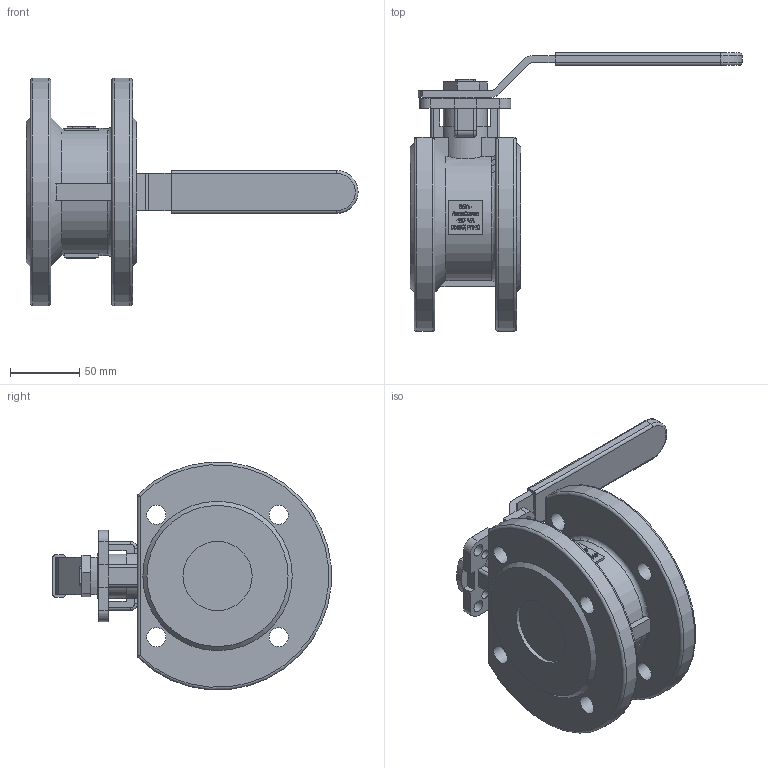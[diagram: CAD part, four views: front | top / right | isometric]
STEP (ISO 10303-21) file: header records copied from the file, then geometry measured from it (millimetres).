
FILE_DESCRIPTION((''),'2;1');
FILE_NAME('K:\Inventor\1 Artikel\12) Flanschen-Kugelhähne\12a) manuell\Econosto\437-VA, 7383\437-VA, DN50\437-VA, DN50, 3D\437-VA, DN50, PN40, HH, 3D.stp','2019-11-07T15:49:01',('claudia'),(''),'Autodesk Inventor 2013','Autodesk Inventor 2013','');
FILE_SCHEMA(('AUTOMOTIVE_DESIGN { 1 0 10303 214 1 1 1 1 }'));
Length unit declared in the file: millimetre
Products named in the file (1): Bauteil8
Bounding box: 240 x 201.29 x 164.52 mm (x, y, z)
Volume: 1030122 mm3; surface area: 126685 mm2
Topology: 1 solids, 1 shells, 1260 faces, 3424 edges, 2270 vertices
Faces by surface type: plane 740, bspline 429, cylinder 68, torus 12, sphere 8, cone 3
Full cylindrical faces by diameter (mm): 7 x4, 9 x4, 13.835 x8, 32 x1, 40 x1, 50 x2
Entity records: 42931 total; most frequent: CARTESIAN_POINT 13894, ORIENTED_EDGE 6784, DIRECTION 4362, EDGE_CURVE 3392, VECTOR 2340, LINE 2340, VERTEX_POINT 2260, EDGE_LOOP 1426
